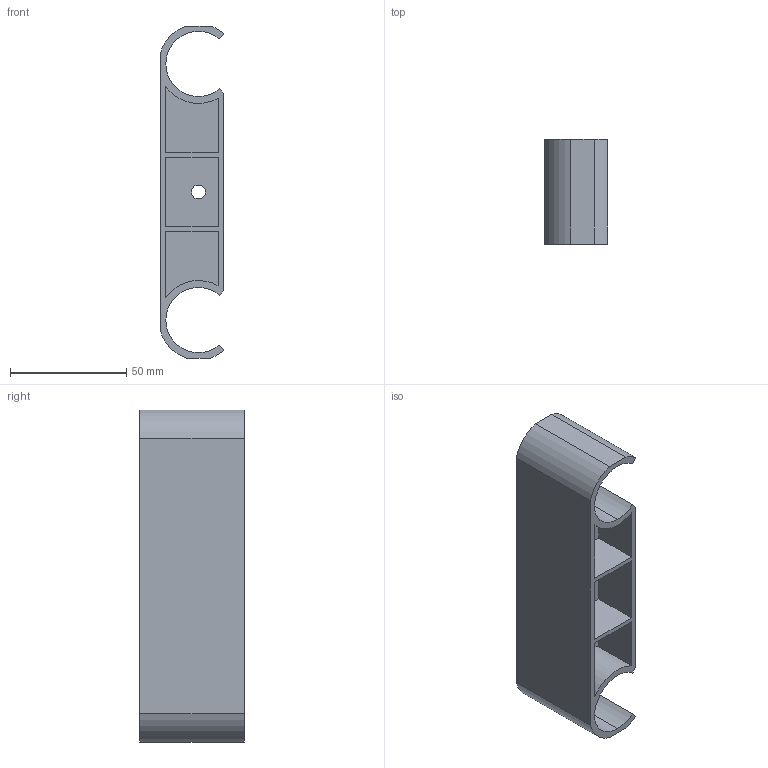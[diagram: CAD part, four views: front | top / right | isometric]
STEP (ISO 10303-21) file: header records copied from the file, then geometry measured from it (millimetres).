
FILE_DESCRIPTION (( 'STEP AP214' ), '1' );
FILE_NAME ('PJ-408A.STEP', '2023-09-12T11:12:33', ( 'catia' ), ( 'HP Inc.' ), 'SwSTEP 2.0', 'SolidWorks 2021', '' );
FILE_SCHEMA (( 'AUTOMOTIVE_DESIGN' ));
Length unit declared in the file: millimetre
Products named in the file (1): PJ-408A
Bounding box: 27.43 x 45 x 142.5 mm (x, y, z)
Volume: 50596 mm3; surface area: 35871.3 mm2
Topology: 1 solids, 1 shells, 54 faces, 138 edges, 92 vertices
Faces by surface type: plane 36, cylinder 18
Entity records: 1676 total; most frequent: CARTESIAN_POINT 285, DIRECTION 284, ORIENTED_EDGE 276, EDGE_CURVE 138, VECTOR 102, LINE 102, VERTEX_POINT 92, AXIS2_PLACEMENT_3D 91
